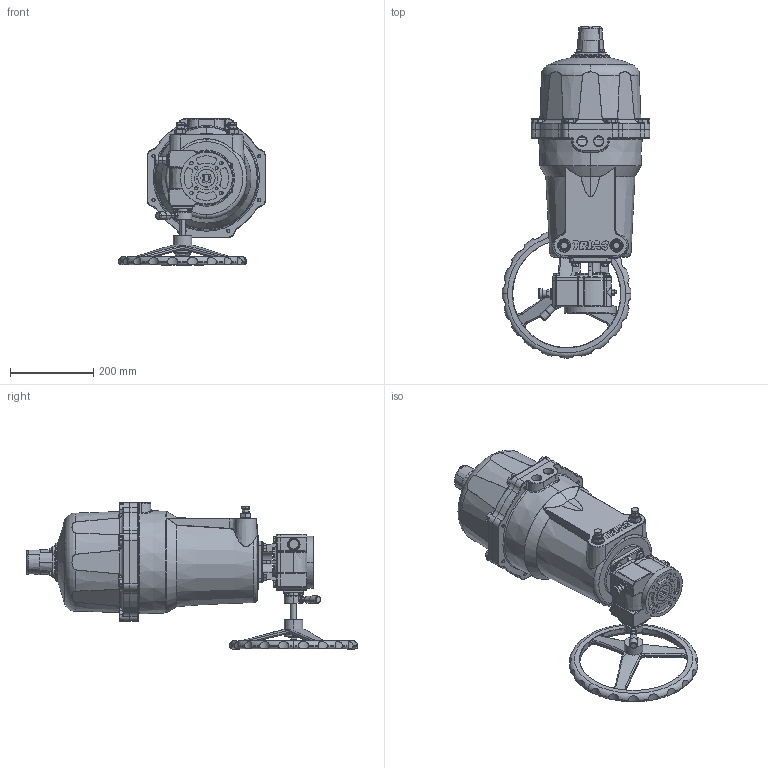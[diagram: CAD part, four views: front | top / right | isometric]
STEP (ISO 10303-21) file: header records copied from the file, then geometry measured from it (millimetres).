
FILE_DESCRIPTION (( 'STEP AP214' ), '1' );
FILE_NAME ('SRX-1200XXX-FC-M.STEP', '2020-02-20T18:50:29', ( '' ), ( '' ), 'SwSTEP 2.0', 'SolidWorks 2019', '' );
FILE_SCHEMA (( 'AUTOMOTIVE_DESIGN' ));
Length unit declared in the file: inch
Products named in the file (1): SRX-1200XXX-FC-M
Bounding box: 355.25 x 799.49 x 352.94 mm (x, y, z)
Surface area: 784349.5 mm2 (no closed solid volume)
Topology: 0 solids, 105 shells, 1787 faces, 5843 edges, 3931 vertices
Faces by surface type: cylinder 621, plane 562, torus 244, bspline 207, cone 140, sphere 13
Entity records: 106533 total; most frequent: CARTESIAN_POINT 34709, DIRECTION 10198, ORIENTED_EDGE 9250, EDGE_CURVE 5813, AXIS2_PLACEMENT_3D 3995, VERTEX_POINT 3931, CIRCLE 2414, VECTOR 2208
